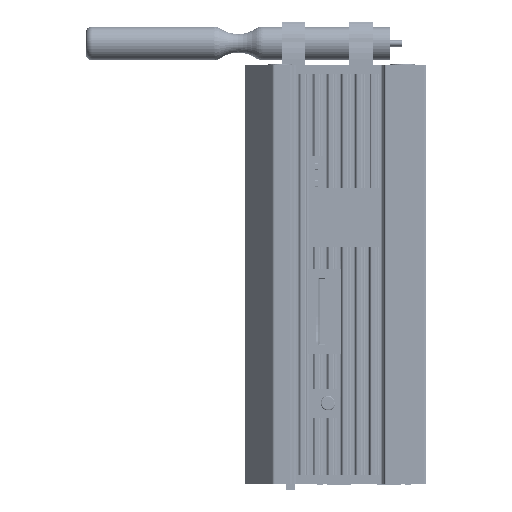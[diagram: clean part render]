
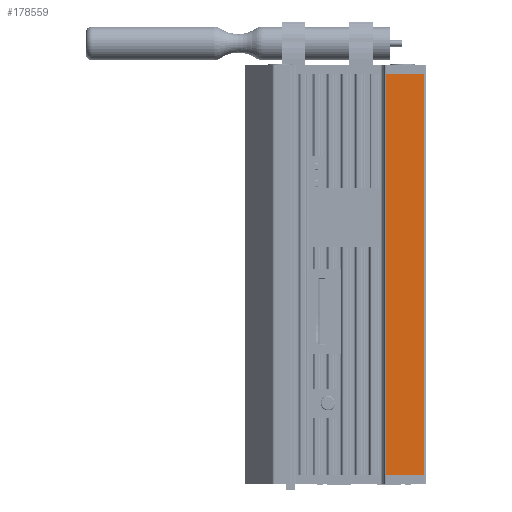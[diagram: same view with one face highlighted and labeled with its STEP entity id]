
A CAD part, left-side view. The second image highlights one B-rep face of the part: STEP entity #178559.
In plain terms, the highlighted planar face has unit normal (-1, 0, 0).
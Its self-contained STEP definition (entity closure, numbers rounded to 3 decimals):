
#15342 = VECTOR ( 'NONE', #332886, 1000. ) ;
#27442 = CARTESIAN_POINT ( 'NONE',  ( -34., 67.62, 14.941 ) ) ;
#40918 = CARTESIAN_POINT ( 'NONE',  ( -34., -0.93, 21.78 ) ) ;
#42424 = CARTESIAN_POINT ( 'NONE',  ( -34., 67., 21.78 ) ) ;
#72972 = VERTEX_POINT ( 'NONE', #113915 ) ;
#73755 = LINE ( 'NONE', #40918, #258721 ) ;
#92066 = LINE ( 'NONE', #242434, #15342 ) ;
#93696 = DIRECTION ( 'NONE',  ( 0., 1., 0. ) ) ;
#94826 = VERTEX_POINT ( 'NONE', #226624 ) ;
#113915 = CARTESIAN_POINT ( 'NONE',  ( -34., -0.93, 21.48 ) ) ;
#143440 = LINE ( 'NONE', #27442, #167843 ) ;
#162429 = VERTEX_POINT ( 'NONE', #317890 ) ;
#167843 = VECTOR ( 'NONE', #260971, 1000. ) ;
#178559 = ADVANCED_FACE ( 'NONE', ( #277805 ), #218230, .F. ) ;
#187390 = DIRECTION ( 'NONE',  ( 0., 0., -1. ) ) ;
#193469 = DIRECTION ( 'NONE',  ( 0., 0., -1. ) ) ;
#197825 = ORIENTED_EDGE ( 'NONE', *, *, #324402, .F. ) ;
#216336 = DIRECTION ( 'NONE',  ( 1., 0., 0. ) ) ;
#218230 = PLANE ( 'NONE',  #314897 ) ;
#219606 = VECTOR ( 'NONE', #93696, 1000. ) ;
#224284 = ORIENTED_EDGE ( 'NONE', *, *, #354223, .T. ) ;
#226624 = CARTESIAN_POINT ( 'NONE',  ( -34., 67.62, 21.48 ) ) ;
#242434 = CARTESIAN_POINT ( 'NONE',  ( -34., 67., 21.48 ) ) ;
#244641 = ORIENTED_EDGE ( 'NONE', *, *, #269231, .F. ) ;
#258721 = VECTOR ( 'NONE', #193469, 1000. ) ;
#260971 = DIRECTION ( 'NONE',  ( 0., 0., 1. ) ) ;
#263457 = LINE ( 'NONE', #355883, #219606 ) ;
#269231 = EDGE_CURVE ( 'NONE', #72972, #162429, #73755, .T. ) ;
#270526 = CARTESIAN_POINT ( 'NONE',  ( -34., 67.62, 14.941 ) ) ;
#277805 = FACE_OUTER_BOUND ( 'NONE', #361099, .T. ) ;
#312417 = EDGE_CURVE ( 'NONE', #162429, #350095, #263457, .T. ) ;
#314897 = AXIS2_PLACEMENT_3D ( 'NONE', #42424, #216336, #187390 ) ;
#317890 = CARTESIAN_POINT ( 'NONE',  ( -34., -0.93, 14.941 ) ) ;
#324402 = EDGE_CURVE ( 'NONE', #350095, #94826, #143440, .T. ) ;
#332886 = DIRECTION ( 'NONE',  ( 0., 1., 0. ) ) ;
#350095 = VERTEX_POINT ( 'NONE', #270526 ) ;
#354223 = EDGE_CURVE ( 'NONE', #72972, #94826, #92066, .T. ) ;
#354691 = ORIENTED_EDGE ( 'NONE', *, *, #312417, .F. ) ;
#355883 = CARTESIAN_POINT ( 'NONE',  ( -34., -2.325, 14.941 ) ) ;
#361099 = EDGE_LOOP ( 'NONE', ( #244641, #224284, #197825, #354691 ) ) ;
